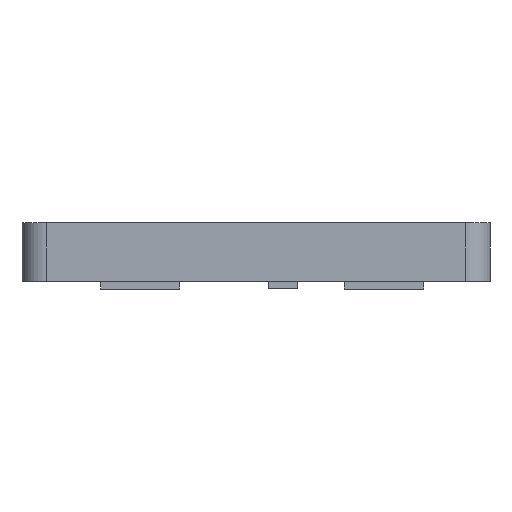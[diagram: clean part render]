
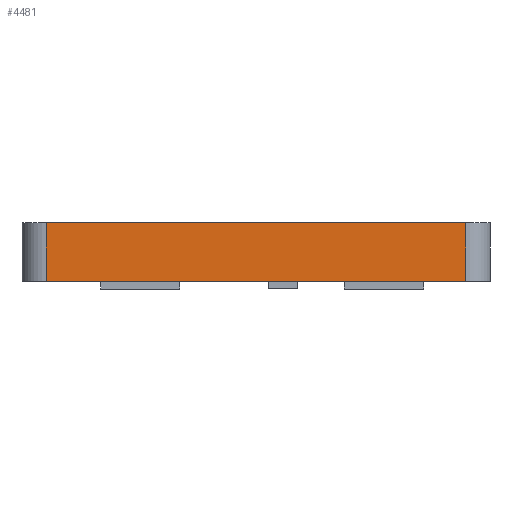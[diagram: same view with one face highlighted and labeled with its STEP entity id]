
A CAD part, front view. The second image highlights one B-rep face of the part: STEP entity #4481.
In plain terms, the highlighted planar face has unit normal (0, -1, 0).
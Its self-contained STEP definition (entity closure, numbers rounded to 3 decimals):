
#44 = PLANE('',#45);
#45 = AXIS2_PLACEMENT_3D('',#46,#47,#48);
#46 = CARTESIAN_POINT('',(-2.2,21.1,11.2));
#47 = DIRECTION('',(0.,0.,1.));
#48 = DIRECTION('',(-1.,0.,0.));
#212 = PLANE('',#213);
#213 = AXIS2_PLACEMENT_3D('',#214,#215,#216);
#214 = CARTESIAN_POINT('',(-2.2,21.1,6.4));
#215 = DIRECTION('',(-0.,-0.,1.));
#216 = DIRECTION('',(-1.,0.,0.));
#238 = CYLINDRICAL_SURFACE('',#239,2.);
#239 = AXIS2_PLACEMENT_3D('',#240,#241,#242);
#240 = CARTESIAN_POINT('',(-0.2,-2.6,6.4));
#241 = DIRECTION('',(-0.,-0.,1.));
#242 = DIRECTION('',(-1.,-0.,0.));
#368 = VERTEX_POINT('',#369);
#369 = CARTESIAN_POINT('',(34.2,-4.6,11.2));
#388 = CYLINDRICAL_SURFACE('',#389,2.);
#389 = AXIS2_PLACEMENT_3D('',#390,#391,#392);
#390 = CARTESIAN_POINT('',(34.2,-2.6,6.4));
#391 = DIRECTION('',(-0.,-0.,1.));
#392 = DIRECTION('',(1.,-0.,-0.));
#400 = EDGE_CURVE('',#401,#368,#403,.T.);
#401 = VERTEX_POINT('',#402);
#402 = CARTESIAN_POINT('',(-0.2,-4.6,11.2));
#403 = SURFACE_CURVE('',#404,(#408,#415),.PCURVE_S1.);
#404 = LINE('',#405,#406);
#405 = CARTESIAN_POINT('',(-2.2,-4.6,11.2));
#406 = VECTOR('',#407,1.);
#407 = DIRECTION('',(1.,0.,-0.));
#408 = PCURVE('',#44,#409);
#409 = DEFINITIONAL_REPRESENTATION('',(#410),#414);
#410 = LINE('',#411,#412);
#411 = CARTESIAN_POINT('',(-0.,25.7));
#412 = VECTOR('',#413,1.);
#413 = DIRECTION('',(-1.,0.));
#414 = ( GEOMETRIC_REPRESENTATION_CONTEXT(2) 
PARAMETRIC_REPRESENTATION_CONTEXT() REPRESENTATION_CONTEXT('2D SPACE',''
  ) );
#415 = PCURVE('',#416,#421);
#416 = PLANE('',#417);
#417 = AXIS2_PLACEMENT_3D('',#418,#419,#420);
#418 = CARTESIAN_POINT('',(-2.2,-4.6,6.4));
#419 = DIRECTION('',(0.,-1.,0.));
#420 = DIRECTION('',(0.,0.,-1.));
#421 = DEFINITIONAL_REPRESENTATION('',(#422),#426);
#422 = LINE('',#423,#424);
#423 = CARTESIAN_POINT('',(-4.8,0.));
#424 = VECTOR('',#425,1.);
#425 = DIRECTION('',(-0.,1.));
#426 = ( GEOMETRIC_REPRESENTATION_CONTEXT(2) 
PARAMETRIC_REPRESENTATION_CONTEXT() REPRESENTATION_CONTEXT('2D SPACE',''
  ) );
#2902 = VERTEX_POINT('',#2903);
#2903 = CARTESIAN_POINT('',(-0.2,-4.6,6.4));
#2925 = EDGE_CURVE('',#2902,#401,#2926,.T.);
#2926 = SURFACE_CURVE('',#2927,(#2931,#2938),.PCURVE_S1.);
#2927 = LINE('',#2928,#2929);
#2928 = CARTESIAN_POINT('',(-0.2,-4.6,6.4));
#2929 = VECTOR('',#2930,1.);
#2930 = DIRECTION('',(-0.,-0.,1.));
#2931 = PCURVE('',#238,#2932);
#2932 = DEFINITIONAL_REPRESENTATION('',(#2933),#2937);
#2933 = LINE('',#2934,#2935);
#2934 = CARTESIAN_POINT('',(1.571,0.));
#2935 = VECTOR('',#2936,1.);
#2936 = DIRECTION('',(0.,1.));
#2937 = ( GEOMETRIC_REPRESENTATION_CONTEXT(2) 
PARAMETRIC_REPRESENTATION_CONTEXT() REPRESENTATION_CONTEXT('2D SPACE',''
  ) );
#2938 = PCURVE('',#416,#2939);
#2939 = DEFINITIONAL_REPRESENTATION('',(#2940),#2944);
#2940 = LINE('',#2941,#2942);
#2941 = CARTESIAN_POINT('',(-0.,2.));
#2942 = VECTOR('',#2943,1.);
#2943 = DIRECTION('',(-1.,0.));
#2944 = ( GEOMETRIC_REPRESENTATION_CONTEXT(2) 
PARAMETRIC_REPRESENTATION_CONTEXT() REPRESENTATION_CONTEXT('2D SPACE',''
  ) );
#3005 = VERTEX_POINT('',#3006);
#3006 = CARTESIAN_POINT('',(34.2,-4.6,6.4));
#3032 = EDGE_CURVE('',#2902,#3005,#3033,.T.);
#3033 = SURFACE_CURVE('',#3034,(#3038,#3045),.PCURVE_S1.);
#3034 = LINE('',#3035,#3036);
#3035 = CARTESIAN_POINT('',(-2.2,-4.6,6.4));
#3036 = VECTOR('',#3037,1.);
#3037 = DIRECTION('',(1.,0.,-0.));
#3038 = PCURVE('',#212,#3039);
#3039 = DEFINITIONAL_REPRESENTATION('',(#3040),#3044);
#3040 = LINE('',#3041,#3042);
#3041 = CARTESIAN_POINT('',(-0.,25.7));
#3042 = VECTOR('',#3043,1.);
#3043 = DIRECTION('',(-1.,-0.));
#3044 = ( GEOMETRIC_REPRESENTATION_CONTEXT(2) 
PARAMETRIC_REPRESENTATION_CONTEXT() REPRESENTATION_CONTEXT('2D SPACE',''
  ) );
#3045 = PCURVE('',#416,#3046);
#3046 = DEFINITIONAL_REPRESENTATION('',(#3047),#3051);
#3047 = LINE('',#3048,#3049);
#3048 = CARTESIAN_POINT('',(-0.,0.));
#3049 = VECTOR('',#3050,1.);
#3050 = DIRECTION('',(-0.,1.));
#3051 = ( GEOMETRIC_REPRESENTATION_CONTEXT(2) 
PARAMETRIC_REPRESENTATION_CONTEXT() REPRESENTATION_CONTEXT('2D SPACE',''
  ) );
#4481 = ADVANCED_FACE('',(#4482),#416,.T.);
#4482 = FACE_BOUND('',#4483,.F.);
#4483 = EDGE_LOOP('',(#4484,#4485,#4486,#4487));
#4484 = ORIENTED_EDGE('',*,*,#3032,.F.);
#4485 = ORIENTED_EDGE('',*,*,#2925,.T.);
#4486 = ORIENTED_EDGE('',*,*,#400,.T.);
#4487 = ORIENTED_EDGE('',*,*,#4488,.F.);
#4488 = EDGE_CURVE('',#3005,#368,#4489,.T.);
#4489 = SURFACE_CURVE('',#4490,(#4494,#4501),.PCURVE_S1.);
#4490 = LINE('',#4491,#4492);
#4491 = CARTESIAN_POINT('',(34.2,-4.6,6.4));
#4492 = VECTOR('',#4493,1.);
#4493 = DIRECTION('',(-0.,-0.,1.));
#4494 = PCURVE('',#416,#4495);
#4495 = DEFINITIONAL_REPRESENTATION('',(#4496),#4500);
#4496 = LINE('',#4497,#4498);
#4497 = CARTESIAN_POINT('',(-0.,36.4));
#4498 = VECTOR('',#4499,1.);
#4499 = DIRECTION('',(-1.,0.));
#4500 = ( GEOMETRIC_REPRESENTATION_CONTEXT(2) 
PARAMETRIC_REPRESENTATION_CONTEXT() REPRESENTATION_CONTEXT('2D SPACE',''
  ) );
#4501 = PCURVE('',#388,#4502);
#4502 = DEFINITIONAL_REPRESENTATION('',(#4503),#4507);
#4503 = LINE('',#4504,#4505);
#4504 = CARTESIAN_POINT('',(-1.571,0.));
#4505 = VECTOR('',#4506,1.);
#4506 = DIRECTION('',(-0.,1.));
#4507 = ( GEOMETRIC_REPRESENTATION_CONTEXT(2) 
PARAMETRIC_REPRESENTATION_CONTEXT() REPRESENTATION_CONTEXT('2D SPACE',''
  ) );
